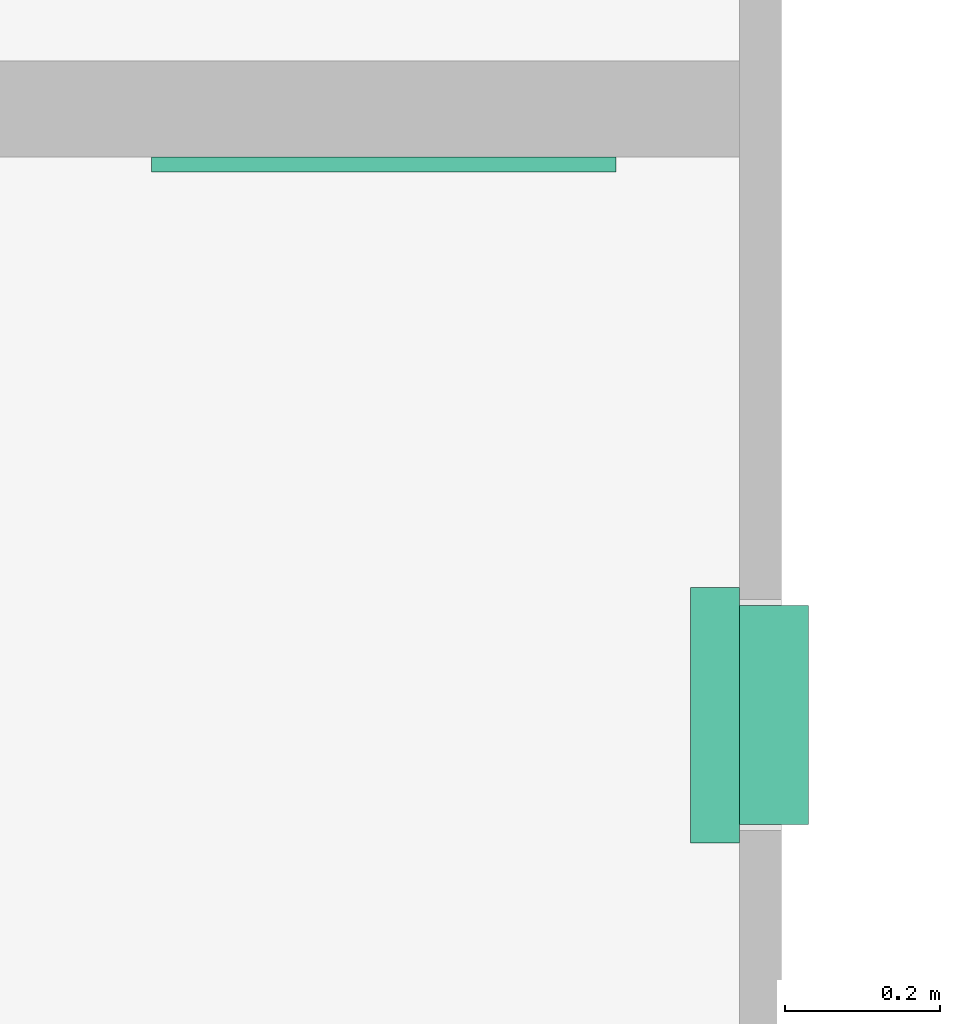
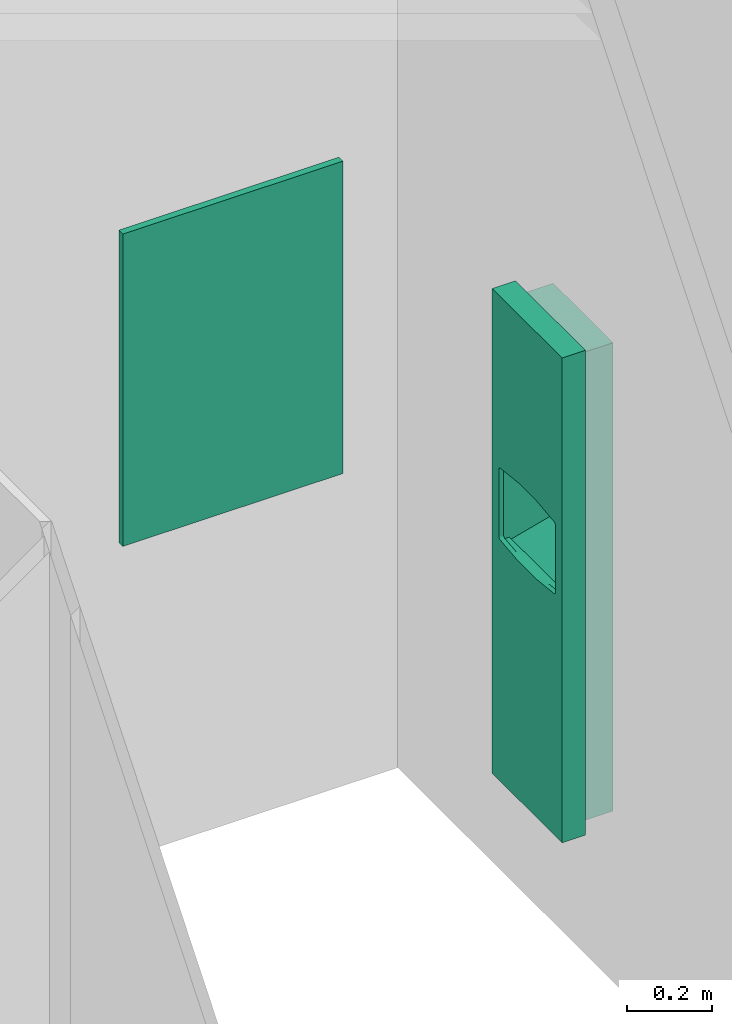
# One storey, part 34 of 45: 2 flow terminals.
"""IFC2X3 building model written with IfcOpenShell, lengths in metres."""

from ifc_helpers import new_model, entity, si_unit, converted_unit, frame, origin, origin_2d_with_axis, place, context, project, spatial, rectangle, extrude, face_set, surface_model, source, transform, mapped, type_object, type_shapes, element, save


model = new_model("IFC2X3")

# Units and contexts
model_context = context("Model", 3, precision=1e-09, world=origin())
plan_context = context("Plan", 3, precision=1e-09, world=origin())
ifc_project = project(units=[si_unit("LENGTHUNIT", "METRE"), si_unit("AREAUNIT", "SQUARE_METRE"), si_unit("VOLUMEUNIT", "CUBIC_METRE"), converted_unit("PLANEANGLEUNIT", "DEGREE", entity("IfcRatioMeasure", 0.01745329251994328), si_unit("PLANEANGLEUNIT", "RADIAN"), dimensions=[0, 0, 0, 0, 0, 0, 0]), si_unit("TIMEUNIT", "SECOND")], contexts=[model_context, plan_context])

# Site, building, storey, space
site_placement = place(None, origin())
site = spatial("IfcSite", under=ifc_project, at=site_placement, Name="Default", CompositionType="ELEMENT")
building_placement = place(site_placement, origin())
building = spatial("IfcBuilding", under=site, at=building_placement, CompositionType="ELEMENT")
storey_placement = place(building_placement, frame((0.0, 0.0, 4.570000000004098)))
storey = spatial("IfcBuildingStorey", under=building, at=storey_placement, Name="Second Floor", CompositionType="ELEMENT", Elevation=4.570000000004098)
space_placement = place(storey_placement, origin())
space = spatial("IfcSpace", under=storey, at=space_placement, Name="2C24", CompositionType="ELEMENT", InteriorOrExteriorSpace="INTERNAL")

# Flow terminals
sanitary_terminal_type_1 = type_object("IfcSanitaryTerminalType", Name="Semi-Recessed", PredefinedType="NOTDEFINED")
shared_shape_1 = source(origin(), model_context, "Body", "SurfaceModel", [
    surface_model("IfcFaceBasedSurfaceModel", [(0.3047999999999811, 1.371600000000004, 0.006350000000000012), (0.02539999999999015, 1.371600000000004, 0.006350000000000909), (0.02539999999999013, 0.02540000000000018, 0.006350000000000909), (0.3047999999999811, 0.02540000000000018, 0.006350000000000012), (0.3047999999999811, 1.371600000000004, 0.0), (0.02539999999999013, 1.371600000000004, 0.0), (0.02539999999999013, 0.02540000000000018, 0.0), (0.3047999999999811, 0.02540000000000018, 0.0), (0.3047999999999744, 0.8683625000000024, 0.0314087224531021), (0.304799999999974, 0.8683625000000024, 0.0), (0.304799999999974, 1.371600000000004, 0.0), (0.3047999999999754, 1.371600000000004, 0.1396999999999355), (0.3047999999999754, 0.9274310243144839, 0.139699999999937), (0.3047999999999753, 0.9028355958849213, 0.1191121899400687), (0.304799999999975, 0.8840898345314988, 0.09308548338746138), (0.3047999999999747, 0.8723562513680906, 0.06323391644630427), (0.02539999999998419, 0.8683625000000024, 0.03140872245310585), (0.02539999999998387, 0.8683625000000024, 0.0), (0.02539999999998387, 1.371600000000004, 0.0), (0.02539999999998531, 1.371600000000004, 0.1396999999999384), (0.02539999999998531, 0.9274310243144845, 0.1396999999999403), (0.02539999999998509, 0.9028355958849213, 0.1191121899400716), (0.02539999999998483, 0.8840898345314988, 0.09308548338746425), (0.02539999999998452, 0.8723562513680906, 0.06323391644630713), (0.1650999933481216, 0.8971245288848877, 0.1125374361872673), (0.244423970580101, 0.8850007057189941, 0.0947267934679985), (0.3048000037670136, 0.8934627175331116, 0.1060988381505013), (0.225727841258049, 0.8897196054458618, 0.1024402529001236), (0.1240624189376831, 0.8936511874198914, 0.1080563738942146), (0.1443802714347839, 0.89626145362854, 0.1114614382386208), (0.02539999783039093, 0.8934627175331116, 0.1060988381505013), (0.2975995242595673, 0.8728225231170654, 0.06500939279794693), (0.2961554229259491, 0.8724397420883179, 0.06352298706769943), (0.08576729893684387, 0.8849983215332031, 0.09472260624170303), (0.05923719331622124, 0.8781034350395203, 0.0805450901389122), (0.06810294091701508, 0.8800443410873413, 0.08500713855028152), (0.02539999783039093, 0.8811564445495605, 0.08562259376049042), (0.03954862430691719, 0.8766331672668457, 0.07681932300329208), (0.04958875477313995, 0.8769928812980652, 0.07776296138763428), (0.02539999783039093, 0.8782230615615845, 0.07815969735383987), (0.03264534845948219, 0.875198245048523, 0.07281118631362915), (0.02539999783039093, 0.8767563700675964, 0.0744282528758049), (0.02539999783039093, 0.87602299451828, 0.07256253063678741), (0.2946777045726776, 0.8762261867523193, 0.07572414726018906), (0.3048000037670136, 0.8767563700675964, 0.0744282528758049), (0.3048000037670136, 0.8774896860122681, 0.07629397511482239), (0.2906513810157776, 0.8717893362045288, 0.0609215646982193), (0.3048000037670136, 0.871357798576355, 0.05527761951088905), (0.3048000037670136, 0.8718570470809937, 0.05925576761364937), (0.02539999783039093, 0.874556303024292, 0.06883108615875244), (0.03170676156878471, 0.8735430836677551, 0.0675705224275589), (0.03171554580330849, 0.8739543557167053, 0.06892137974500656), (0.104461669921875, 0.889717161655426, 0.1024366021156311), (0.02539999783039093, 0.8752896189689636, 0.07069680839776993), (0.03172433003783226, 0.8743656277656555, 0.07027223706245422), (0.03218483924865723, 0.8747819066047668, 0.07154171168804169), (0.185808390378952, 0.8962624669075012, 0.1114626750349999), (0.3048000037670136, 0.8703593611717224, 0.04732131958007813), (0.2280749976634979, 0.8709259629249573, 0.05697767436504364), (0.2061262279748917, 0.8936530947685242, 0.1080589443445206), (0.3048000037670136, 0.8752896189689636, 0.07069680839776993), (0.297547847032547, 0.8752022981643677, 0.07282306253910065), (0.2980738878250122, 0.8745774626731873, 0.0708826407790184), (0.2985999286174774, 0.8739525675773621, 0.06894221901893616), (0.3048000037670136, 0.874556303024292, 0.06883108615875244), (0.2709419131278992, 0.8781068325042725, 0.08055329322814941), (0.3048000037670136, 0.8811564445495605, 0.08562259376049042), (0.2620970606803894, 0.8800443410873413, 0.08500713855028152), (0.2805894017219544, 0.8769944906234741, 0.07776710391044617), (0.3048000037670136, 0.8782230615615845, 0.07815969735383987), (0.03435983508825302, 0.8722586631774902, 0.06284872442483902), (0.02539999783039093, 0.872106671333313, 0.06124484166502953), (0.0367727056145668, 0.8719081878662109, 0.06142202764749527), (0.2906513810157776, 0.8766331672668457, 0.07681932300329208), (0.02539999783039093, 0.8718570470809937, 0.05925576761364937), (0.3048000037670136, 0.8738229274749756, 0.06696536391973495), (0.2980997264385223, 0.8733875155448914, 0.06697580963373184), (0.3048000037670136, 0.872106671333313, 0.06124484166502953), (0.2947112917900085, 0.8720570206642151, 0.06203658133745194), (0.02539999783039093, 0.8738229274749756, 0.06696536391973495), (0.3048000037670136, 0.873089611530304, 0.06509964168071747), (0.02539999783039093, 0.8774896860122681, 0.07629397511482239), (0.03438528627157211, 0.8759323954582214, 0.07491400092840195), (0.03677724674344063, 0.8764464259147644, 0.07632055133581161), (0.03261014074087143, 0.8728178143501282, 0.0649920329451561), (0.02539999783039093, 0.8703593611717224, 0.04732131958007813), (0.1650999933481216, 0.8683624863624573, 0.03140872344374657), (0.03954862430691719, 0.8717893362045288, 0.0609215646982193), (0.1021250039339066, 0.8709259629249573, 0.05697767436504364), (0.02539999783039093, 0.871357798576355, 0.05527761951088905), (0.02539999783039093, 0.873089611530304, 0.06509964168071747), (0.2961127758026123, 0.8757142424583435, 0.07427360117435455), (0.3048000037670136, 0.87602299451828, 0.07256253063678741), (0.1650999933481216, 0.8701865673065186, 0.05300865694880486), (0.03954862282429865, 0.9617593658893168, 0.06092156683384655), (0.1650999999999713, 0.9617593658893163, 0.05300865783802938), (0.2906513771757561, 0.9617593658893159, 0.06092156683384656), (0.2927086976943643, 0.9617593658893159, 0.06119241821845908), (0.2946258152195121, 0.9617593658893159, 0.06198651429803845), (0.2962720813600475, 0.9617593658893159, 0.06324973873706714), (0.2975353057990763, 0.9617593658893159, 0.06489600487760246), (0.2983294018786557, 0.9617593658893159, 0.06681312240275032), (0.2986002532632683, 0.9617593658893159, 0.06887044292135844), (0.2983294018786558, 0.9617593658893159, 0.07092776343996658), (0.2975353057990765, 0.9617593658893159, 0.0728448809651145), (0.2962720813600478, 0.9617593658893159, 0.07449114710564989), (0.2946258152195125, 0.9617593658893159, 0.07575437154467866), (0.2927086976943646, 0.9617593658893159, 0.07654846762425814), (0.2906513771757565, 0.9617593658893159, 0.07681931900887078), (0.2806776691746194, 0.9617593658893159, 0.07775040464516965), (0.2710486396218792, 0.9617593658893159, 0.0805114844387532), (0.2620970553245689, 0.9617593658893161, 0.0850071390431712), (0.2316919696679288, 0.9617593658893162, 0.1002429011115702), (0.1989754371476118, 0.9617593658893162, 0.1095287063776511), (0.1651000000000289, 0.9617593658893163, 0.1125374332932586), (0.1312245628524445, 0.9617593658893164, 0.109528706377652), (0.09850803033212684, 0.9617593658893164, 0.1002429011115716), (0.06810294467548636, 0.9617593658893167, 0.08500713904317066), (0.05915136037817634, 0.9617593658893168, 0.08051148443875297), (0.04952233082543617, 0.9617593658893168, 0.07775040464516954), (0.03954862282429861, 0.9617593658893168, 0.07681931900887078), (0.03749130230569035, 0.9617593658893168, 0.0765484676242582), (0.03557418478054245, 0.9617593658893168, 0.07575437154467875), (0.03392791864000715, 0.9617593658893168, 0.07449114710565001), (0.03266469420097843, 0.9617593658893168, 0.07284488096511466), (0.03187059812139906, 0.9617593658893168, 0.07092776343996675), (0.03159974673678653, 0.9617593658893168, 0.06887044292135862), (0.03187059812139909, 0.9617593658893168, 0.06681312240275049), (0.03266469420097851, 0.9617593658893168, 0.0648960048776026), (0.03392791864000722, 0.9617593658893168, 0.06324973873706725), (0.03557418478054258, 0.9617593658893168, 0.06198651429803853), (0.03749130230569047, 0.9617593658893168, 0.06119241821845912), (0.3302000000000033, 1.397000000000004, 0.1523999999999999), (0.0, 1.397000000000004, 0.152400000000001), (0.0, 0.0, 0.152400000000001), (0.3302000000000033, 0.0, 0.1523999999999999), (0.03175000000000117, 0.7016793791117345, 0.1524000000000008), (0.03175000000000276, 0.8960819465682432, 0.1524000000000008), (0.03192255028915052, 0.8975521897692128, 0.1524000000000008), (0.03243082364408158, 0.8989425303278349, 0.1524000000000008), (0.03324719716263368, 0.9001774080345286, 0.1524000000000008), (0.03432730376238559, 0.9011897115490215, 0.1524000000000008), (0.03561244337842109, 0.9019244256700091, 0.1524000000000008), (0.03703277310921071, 0.9023416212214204, 0.1524000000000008), (0.1222300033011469, 0.9119737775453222, 0.1524000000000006), (0.2079699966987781, 0.911973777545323, 0.1524000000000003), (0.2931672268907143, 0.902341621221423, 0.1524), (0.2945875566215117, 0.9019244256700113, 0.1524), (0.2958726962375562, 0.9011897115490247, 0.1524), (0.2969528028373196, 0.9001774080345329, 0.1524), (0.297769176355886, 0.8989425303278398, 0.1524), (0.2982774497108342, 0.8975521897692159, 0.1524), (0.2984500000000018, 0.8960819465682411, 0.1524), (0.2984500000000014, 0.7016793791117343, 0.1524), (0.2982774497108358, 0.7002091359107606, 0.1524), (0.2977691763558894, 0.6988187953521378, 0.1524), (0.2969528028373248, 0.697583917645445, 0.1524), (0.2958726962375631, 0.6965716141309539, 0.1524), (0.29458755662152, 0.6958369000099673, 0.1524), (0.2931672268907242, 0.6954197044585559, 0.1524), (0.2079699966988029, 0.6857875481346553, 0.1524000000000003), (0.1222300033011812, 0.6857875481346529, 0.1524000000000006), (0.03703277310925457, 0.6954197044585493, 0.1524000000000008), (0.03561244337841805, 0.6958369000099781, 0.1524000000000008), (0.0343273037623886, 0.6965716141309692, 0.1524000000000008), (0.03324719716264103, 0.6975839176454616, 0.1524000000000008), (0.03243082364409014, 0.698818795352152, 0.1524000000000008), (0.03192255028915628, 0.7002091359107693, 0.1524000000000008), (0.3063874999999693, 1.373187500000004, 0.0), (0.02381249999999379, 1.373187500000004, 0.0), (0.02381249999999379, 0.02381250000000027, 0.0), (0.3063874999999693, 0.02381250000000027, 0.0), (0.3047999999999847, 1.371600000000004, 0.0), (0.3047999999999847, 0.02540000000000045, 0.0), (0.02539999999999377, 0.02540000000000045, 0.0), (0.02539999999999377, 1.371600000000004, 0.0), (0.304799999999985, 1.371600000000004, 0.08889999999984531), (0.3047999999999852, 1.371600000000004, 0.1396999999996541), (0.3047999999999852, 0.02540000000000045, 0.1396999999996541), (0.304799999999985, 0.02540000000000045, 0.08889999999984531), (0.02539999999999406, 0.02540000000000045, 0.08889999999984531), (0.02539999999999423, 0.02540000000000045, 0.139699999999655), (0.02539999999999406, 1.371600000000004, 0.08889999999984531), (0.02539999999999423, 1.371600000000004, 0.139699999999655), (0.02381249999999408, 1.373187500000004, 0.08889999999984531), (0.3063874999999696, 1.373187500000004, 0.08889999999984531), (0.02381249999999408, 0.02381250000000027, 0.08889999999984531), (0.3063874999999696, 0.02381250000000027, 0.08889999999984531), (0.3302000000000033, 1.397000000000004, 0.08889999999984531), (0.0, 1.397000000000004, 0.08889999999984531), (0.0, 0.0, 0.08889999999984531), (0.3302000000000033, 0.0, 0.08889999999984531), (0.3302000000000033, 1.397000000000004, 0.1396999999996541), (0.0, 1.397000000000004, 0.1396999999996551), (0.0, 0.0, 0.1396999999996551), (0.3302000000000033, 0.0, 0.1396999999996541), (0.0317500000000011, 0.7016793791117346, 0.139699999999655), (0.03175000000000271, 0.8960819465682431, 0.139699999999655), (0.03192255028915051, 0.8975521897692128, 0.139699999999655), (0.03243082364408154, 0.8989425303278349, 0.139699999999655), (0.03324719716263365, 0.9001774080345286, 0.139699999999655), (0.03432730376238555, 0.9011897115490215, 0.139699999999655), (0.03561244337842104, 0.9019244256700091, 0.139699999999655), (0.03703277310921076, 0.9023416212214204, 0.139699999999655), (0.1222300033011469, 0.9119737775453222, 0.1396999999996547), (0.207969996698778, 0.911973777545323, 0.1396999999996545), (0.2931672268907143, 0.902341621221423, 0.1396999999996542), (0.2945875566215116, 0.9019244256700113, 0.1396999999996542), (0.2958726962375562, 0.9011897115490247, 0.1396999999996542), (0.2969528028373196, 0.9001774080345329, 0.1396999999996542), (0.2977691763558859, 0.8989425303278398, 0.1396999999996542), (0.2982774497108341, 0.8975521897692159, 0.1396999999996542), (0.2984500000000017, 0.8960819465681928, 0.1396999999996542), (0.2984500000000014, 0.7016793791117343, 0.1396999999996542), (0.2982774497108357, 0.7002091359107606, 0.1396999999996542), (0.2977691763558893, 0.6988187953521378, 0.1396999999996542), (0.2969528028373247, 0.697583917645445, 0.1396999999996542), (0.295872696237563, 0.6965716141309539, 0.1396999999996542), (0.29458755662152, 0.6958369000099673, 0.1396999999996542), (0.2931672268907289, 0.6954197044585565, 0.1396999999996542), (0.2079699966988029, 0.6857875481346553, 0.1396999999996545), (0.1222300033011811, 0.6857875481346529, 0.1396999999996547), (0.0370327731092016, 0.6954197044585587, 0.139699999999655), (0.03561244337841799, 0.6958369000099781, 0.139699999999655), (0.03432730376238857, 0.6965716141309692, 0.139699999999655), (0.03324719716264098, 0.6975839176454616, 0.139699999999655), (0.03243082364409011, 0.698818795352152, 0.139699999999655), (0.03192255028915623, 0.7002091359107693, 0.139699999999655), (0.02698749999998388, 0.6774923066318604, 0.1206361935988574), (0.02698749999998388, 0.6858000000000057, 0.1206361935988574), (0.02698749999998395, 0.6858000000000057, 0.1397000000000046), (0.02698749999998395, 0.0253999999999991, 0.1397000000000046), (0.02698749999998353, 0.0253999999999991, 0.007937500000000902), (0.02698749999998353, 0.7076898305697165, 0.007937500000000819), (0.3032124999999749, 0.6774923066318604, 0.1206361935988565), (0.3032124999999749, 0.6858000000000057, 0.1206361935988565), (0.3032124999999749, 0.6858000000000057, 0.1397000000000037), (0.3032124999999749, 0.0253999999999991, 0.1397000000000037), (0.3032124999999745, 0.0253999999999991, 0.007937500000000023), (0.3032124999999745, 0.7076898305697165, 0.007937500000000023)], [face_set([[[0, 1, 2, 3]], [[4, 5, 6, 7]], [[1, 0, 4, 5]], [[2, 6, 5, 1]], [[3, 7, 6, 2]], [[0, 3, 7, 4]]]), face_set([[[8, 9, 10, 11, 12, 13, 14, 15]], [[16, 17, 18, 19, 20, 21, 22, 23]], [[9, 8, 16, 17]], [[10, 18, 17, 9]], [[11, 19, 18, 10]], [[12, 11, 19, 20]], [[24, 20, 21]], [[25, 26, 27]], [[28, 29, 21]], [[28, 21, 30]], [[15, 31, 32]], [[22, 33, 30]], [[24, 21, 29]], [[34, 35, 36]], [[37, 38, 39]], [[40, 41, 42]], [[39, 38, 34]], [[22, 35, 33]], [[39, 34, 36]], [[43, 44, 45]], [[46, 47, 48]], [[49, 50, 51]], [[33, 52, 30]], [[53, 54, 55]], [[24, 56, 13]], [[57, 47, 58]], [[24, 13, 12]], [[13, 56, 59]], [[59, 27, 26]], [[60, 61, 62]], [[62, 63, 64]], [[24, 12, 20]], [[55, 42, 53]], [[65, 66, 67]], [[25, 67, 14]], [[25, 14, 26]], [[65, 68, 69]], [[66, 65, 69]], [[70, 71, 72]], [[69, 68, 73]], [[72, 71, 74]], [[26, 13, 59]], [[54, 53, 49]], [[64, 60, 62]], [[75, 63, 76]], [[46, 77, 78]], [[79, 50, 49]], [[80, 76, 31]], [[39, 81, 37]], [[41, 82, 81]], [[49, 51, 54]], [[81, 82, 83]], [[40, 82, 41]], [[70, 84, 23]], [[84, 50, 79]], [[85, 16, 86]], [[28, 30, 52]], [[70, 23, 71]], [[87, 72, 74]], [[85, 88, 89]], [[87, 89, 88]], [[74, 89, 87]], [[84, 90, 23]], [[58, 47, 46]], [[35, 22, 36]], [[63, 75, 64]], [[91, 61, 92]], [[45, 73, 43]], [[80, 75, 76]], [[61, 60, 92]], [[15, 32, 78]], [[45, 69, 73]], [[92, 44, 91]], [[66, 14, 67]], [[84, 79, 90]], [[85, 93, 88]], [[86, 57, 93]], [[31, 15, 80]], [[77, 15, 78]], [[42, 55, 40]], [[58, 93, 57]], [[77, 46, 48]], [[8, 57, 86]], [[37, 81, 83]], [[44, 43, 91]], [[85, 86, 93]], [[94, 95, 96, 97, 98, 99, 100, 101, 102, 103, 104, 105, 106, 107, 108, 109, 110, 111, 112, 113, 114, 115, 116, 117, 118, 119, 120, 121, 122, 123, 124, 125, 126, 127, 128, 129, 130, 131]], [[95, 94, 87, 88, 93]], [[96, 95, 93, 58, 46]], [[46, 96, 97]], [[78, 98, 99]], [[97, 98, 78]], [[99, 100, 31]], [[46, 97, 78]], [[63, 31, 101]], [[31, 78, 99]], [[63, 101, 102]], [[101, 31, 100]], [[61, 104, 105]], [[43, 106, 107]], [[105, 106, 43]], [[73, 107, 108]], [[63, 103, 61]], [[103, 63, 102]], [[61, 103, 104]], [[61, 105, 43]], [[107, 73, 43]], [[108, 68, 73]], [[68, 108, 109]], [[109, 65, 68]], [[110, 67, 65]], [[67, 110, 111]], [[109, 110, 65]], [[111, 112, 25]], [[25, 67, 111]], [[27, 25, 112]], [[112, 59, 27]], [[113, 114, 56]], [[56, 59, 113]], [[24, 56, 114]], [[113, 59, 112]], [[114, 115, 29]], [[29, 24, 114]], [[28, 29, 115]], [[115, 116, 28]], [[116, 117, 33]], [[33, 52, 116]], [[35, 33, 117]], [[116, 52, 28]], [[118, 34, 35]], [[35, 117, 118]], [[118, 119, 34]], [[120, 37, 38]], [[38, 119, 120]], [[34, 119, 38]], [[37, 120, 121]], [[82, 122, 123]], [[121, 122, 83]], [[123, 124, 40]], [[37, 121, 83]], [[83, 122, 82]], [[40, 125, 54]], [[40, 82, 123]], [[54, 125, 126]], [[40, 124, 125]], [[84, 127, 128]], [[129, 84, 128]], [[72, 130, 131]], [[129, 130, 70]], [[87, 131, 94]], [[127, 50, 126]], [[127, 84, 50]], [[126, 50, 54]], [[70, 84, 129]], [[130, 72, 70]], [[131, 87, 72]]]), face_set([[[132, 133, 134, 135], [136, 137, 138, 139, 140, 141, 142, 143, 144, 145, 146, 147, 148, 149, 150, 151, 152, 153, 154, 155, 156, 157, 158, 159, 160, 161, 162, 163, 164, 165, 166, 167]], [[168, 169, 170, 171], [172, 173, 174, 175]], [[172, 176, 177, 178, 179, 173]], [[173, 174, 180, 181, 178, 179]], [[174, 175, 182, 183, 181, 180]], [[175, 182, 183, 177, 176, 172]], [[168, 169, 184, 185]], [[169, 184, 186, 170]], [[170, 186, 187, 171]], [[171, 168, 185, 187]], [[188, 189, 190, 191], [185, 187, 186, 184]], [[133, 132, 192, 188, 189, 193]], [[134, 133, 193, 189, 190, 194]], [[135, 134, 194, 190, 191, 195]], [[132, 135, 195, 191, 188, 192]], [[177, 183, 181, 178], [196, 197, 198, 199, 200, 201, 202, 203, 204, 205, 206, 207, 208, 209, 210, 211, 212, 213, 214, 215, 216, 217, 218, 219, 220, 221, 222, 223, 224, 225, 226, 227]], [[137, 136, 196, 197]], [[198, 197, 137, 138]], [[199, 198, 138, 139]], [[139, 140, 200, 199]], [[202, 201, 141, 142]], [[203, 202, 142, 143]], [[140, 141, 201, 200]], [[203, 143, 144, 204]], [[145, 205, 204, 144]], [[205, 145, 146, 206]], [[207, 206, 146, 147]], [[208, 207, 147, 148]], [[148, 149, 209, 208]], [[212, 211, 151, 152]], [[211, 210, 150, 151]], [[149, 150, 210, 209]], [[153, 213, 212, 152]], [[214, 213, 153, 154]], [[215, 214, 154, 155]], [[155, 156, 216, 215]], [[218, 217, 157, 158]], [[219, 218, 158, 159]], [[156, 157, 217, 216]], [[219, 159, 160, 220]], [[161, 221, 220, 160]], [[221, 161, 162, 222]], [[223, 222, 162, 163]], [[224, 223, 163, 164]], [[164, 165, 225, 224]], [[227, 226, 166, 167]], [[196, 227, 167, 136]], [[165, 166, 226, 225]]]), face_set([[[228, 229, 230, 231, 232, 233]], [[234, 235, 236, 237, 238, 239]], [[233, 228, 234, 239]], [[232, 238, 239, 233]], [[231, 237, 238, 232]], [[230, 231, 237, 236]], [[229, 230, 236, 235]], [[228, 234, 235, 229]]])]),
])
type_shapes(sanitary_terminal_type_1, [shared_shape_1])
flow_terminal_1_placement = place(space_placement, frame((-20.20110000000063, 40.91463871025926, 0.3428999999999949), z_axis=(-1.0, 0.0, 0.0), x_axis=(0.0, -1.0, 0.0)))
element("IfcFlowTerminal", 1, at=flow_terminal_1_placement, inside=space, type_object=sanitary_terminal_type_1, Name="M_Towel Dispensers - receptical:Semi-Recessed:Semi-Recessed", ObjectType="Semi-Recessed", context=model_context, shape_type="MappedRepresentation", body=[
    mapped(shared_shape_1, transform((0.0, 0.0, 0.0), scale=1.0)),
])
sanitary_terminal_type_2 = type_object("IfcSanitaryTerminalType", Name="Mirror 600mm x 900mm", PredefinedType="NOTDEFINED")
shared_shape_2 = source(origin(), model_context, "Body", "SweptSolid", [
    extrude(rectangle(XDim=0.01905, YDim=0.5999999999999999, at=origin_2d_with_axis()), frame((0.02447030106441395, 0.071525, 1.0), z_axis=(0.0, 0.0, 1.0), x_axis=(0.0, -1.0, 0.0)), (0.0, 0.0, 1.0), 0.8999999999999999),
])
type_shapes(sanitary_terminal_type_2, [shared_shape_2])
flow_terminal_2_placement = place(space_placement, frame((-20.72552969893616, 41.53243871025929, -0.08499999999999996), z_axis=(0.0, 0.0, 1.0), x_axis=(-1.0, 0.0, 0.0)))
element("IfcFlowTerminal", 2, at=flow_terminal_2_placement, inside=space, type_object=sanitary_terminal_type_2, Name="M_Mirror:Mirror 600mm x 900mm:Mirror 600mm x 900mm", ObjectType="Mirror 600mm x 900mm", context=model_context, shape_type="MappedRepresentation", body=[
    mapped(shared_shape_2, transform((0.0, 0.0, 0.0), scale=1.0)),
])

save(model, "model.ifc")
